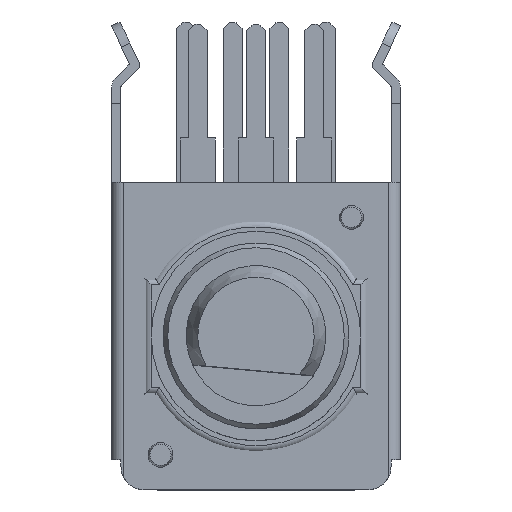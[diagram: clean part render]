
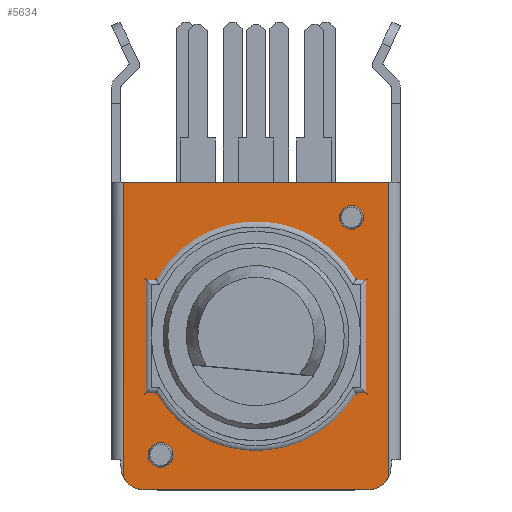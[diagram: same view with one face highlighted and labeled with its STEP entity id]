
A CAD part, top view. The second image highlights one B-rep face of the part: STEP entity #5634.
In plain terms, the highlighted planar face has unit normal (0, 0, 1).
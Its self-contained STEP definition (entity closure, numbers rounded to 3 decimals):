
#383=FACE_OUTER_BOUND($,#683,.T.);
#683=EDGE_LOOP($,(#5097,#5098,#5099,#5100,#5101,#5102));
#794=CIRCLE($,#6019,1.);
#798=CIRCLE($,#6026,1.);
#1304=LINE($,#8917,#1990);
#1348=LINE($,#9049,#2034);
#1369=LINE($,#9120,#2055);
#1424=LINE($,#9243,#2110);
#1990=VECTOR($,#7189,9.6);
#2034=VECTOR($,#7299,11.4);
#2055=VECTOR($,#7354,12.636);
#2110=VECTOR($,#7475,12.636);
#2589=VERTEX_POINT($,#8911);
#2591=VERTEX_POINT($,#8915);
#2644=VERTEX_POINT($,#9045);
#2646=VERTEX_POINT($,#9048);
#2660=VERTEX_POINT($,#9082);
#2667=VERTEX_POINT($,#9107);
#3339=EDGE_CURVE($,#2591,#2589,#1304,.T.);
#3400=EDGE_CURVE($,#2644,#2646,#1348,.T.);
#3417=EDGE_CURVE($,#2660,#2591,#794,.T.);
#3429=EDGE_CURVE($,#2589,#2667,#798,.T.);
#3432=EDGE_CURVE($,#2667,#2644,#1369,.T.);
#3499=EDGE_CURVE($,#2646,#2660,#1424,.T.);
#5097=ORIENTED_EDGE($,*,*,#3429,.F.);
#5098=ORIENTED_EDGE($,*,*,#3339,.F.);
#5099=ORIENTED_EDGE($,*,*,#3417,.F.);
#5100=ORIENTED_EDGE($,*,*,#3499,.F.);
#5101=ORIENTED_EDGE($,*,*,#3400,.F.);
#5102=ORIENTED_EDGE($,*,*,#3432,.F.);
#5341=PLANE($,#6124);
#5634=ADVANCED_FACE($,(#383),#5341,.T.);
#6019=AXIS2_PLACEMENT_3D($,#9083,#7326,#7327);
#6026=AXIS2_PLACEMENT_3D($,#9115,#7346,#7347);
#6124=AXIS2_PLACEMENT_3D($,#9466,#7691,#7692);
#7189=DIRECTION($,(-1.,0.,0.));
#7299=DIRECTION($,(1.,0.,0.));
#7326=DIRECTION('center_axis',(0.,0.,
-1.));
#7327=DIRECTION('ref_axis',(0.707,-0.707,0.));
#7346=DIRECTION('center_axis',(0.,0.,
-1.));
#7347=DIRECTION('ref_axis',(-0.707,-0.707,0.));
#7354=DIRECTION($,(0.,1.,0.));
#7475=DIRECTION($,(0.,-1.,0.));
#7691=DIRECTION('center_axis',(0.,0.,
1.));
#7692=DIRECTION('ref_axis',(-1.,0.,0.));
#8911=CARTESIAN_POINT('',(-4.8,-6.6,6.6));
#8915=CARTESIAN_POINT('',(4.8,-6.6,6.6));
#8917=CARTESIAN_POINT($,(5.8,-6.6,6.6));
#9045=CARTESIAN_POINT('',(-5.7,6.6,6.6));
#9048=CARTESIAN_POINT('',(5.7,6.6,6.6));
#9049=CARTESIAN_POINT($,(5.8,6.6,6.6));
#9082=CARTESIAN_POINT('',(5.7,-6.036,6.6));
#9083=CARTESIAN_POINT('Origin',(4.8,-5.6,6.6));
#9107=CARTESIAN_POINT('',(-5.7,-6.036,6.6));
#9115=CARTESIAN_POINT('Origin',(-4.8,-5.6,6.6));
#9120=CARTESIAN_POINT($,(-5.7,0.,6.6));
#9243=CARTESIAN_POINT($,(5.7,0.,6.6));
#9466=CARTESIAN_POINT('Origin',(0.,0.,
6.6));
